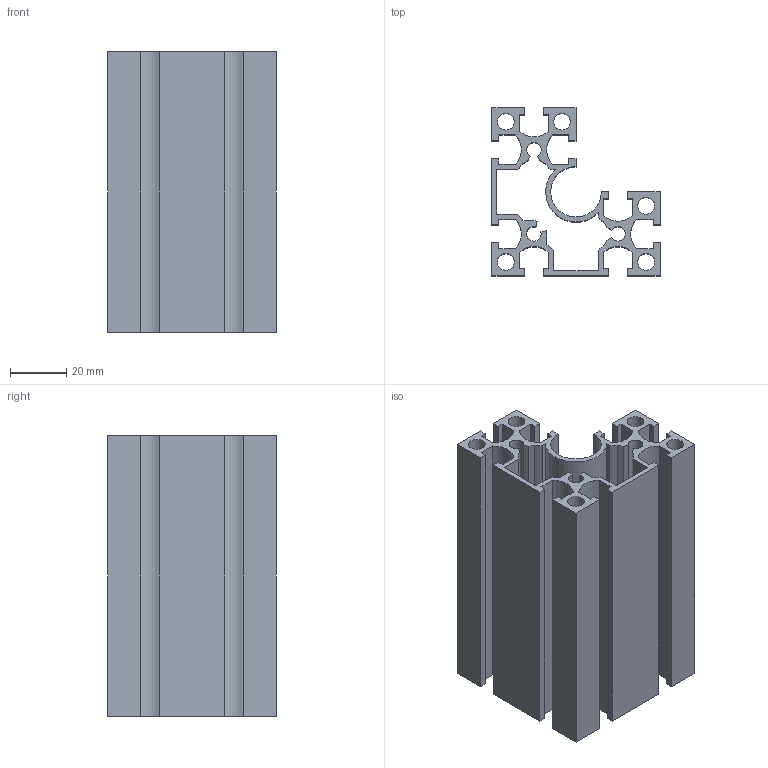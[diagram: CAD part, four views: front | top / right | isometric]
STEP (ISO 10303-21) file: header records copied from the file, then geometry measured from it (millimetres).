
FILE_DESCRIPTION(/* description */ ('Unknown'),/* implementation_level */ '2;1');
FILE_NAME(/* name */ 'NM6630',/* time_stamp */ '2026-08-31T11:20:56+08:00',/* author */ ('Unknown'),/* organization */ ('Unknown'),/* preprocessor_version */ 'ST-DEVELOPER v16.7',/* originating_system */ 'DEX',/* authorisation */ $);
FILE_SCHEMA (('AUTOMOTIVE_DESIGN {1 0 10303 214 3 1 1}'));
Length unit declared in the file: millimetre
Products named in the file (1): 6630-
Bounding box: 60 x 60 x 100 mm (x, y, z)
Volume: 84184.4 mm3; surface area: 77022.1 mm2
Topology: 1 solids, 1 shells, 110 faces, 324 edges, 216 vertices
Faces by surface type: plane 84, cylinder 26
Full cylindrical faces by diameter (mm): 6 x5
Entity records: 4433 total; most frequent: CARTESIAN_POINT 646, ORIENTED_EDGE 638, DIRECTION 593, EDGE_CURVE 319, LINE 267, VECTOR 267, VERTEX_POINT 216, AXIS2_PLACEMENT_3D 163
